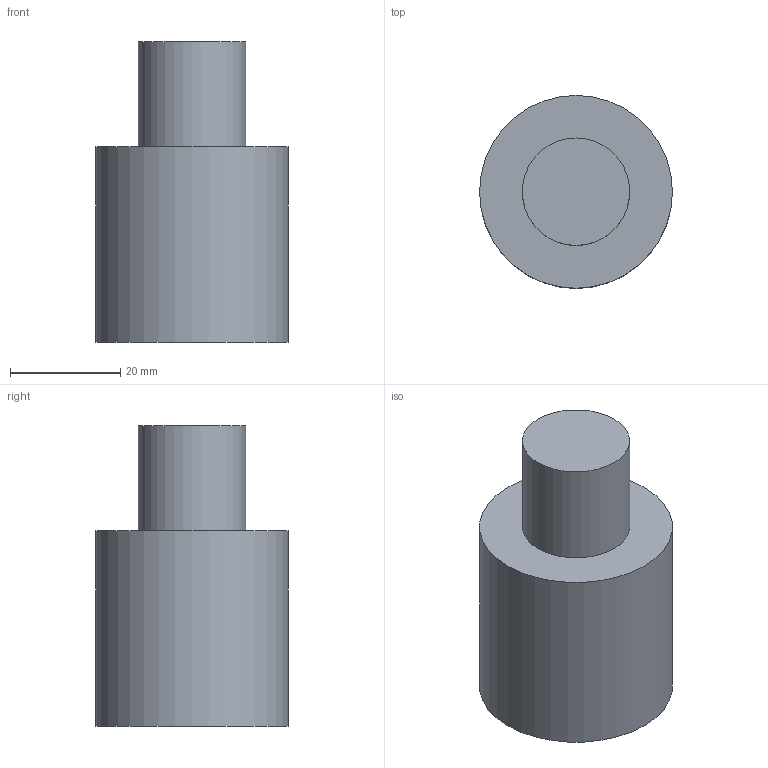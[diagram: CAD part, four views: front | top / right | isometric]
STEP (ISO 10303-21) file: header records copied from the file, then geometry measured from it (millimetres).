
FILE_DESCRIPTION(('Mechanical CAD reference from nasji.com'),'2;1');
FILE_NAME('NASJI.step','',(''),(''),'','NASJI distribution','');
FILE_SCHEMA(('AUTOMOTIVE_DESIGN { 1 0 10303 214 1 1 1 1 }'));
Length unit declared in the file: millimetre
Products named in the file (1): Open CASCADE STEP translator 7.8 154
Bounding box: 35 x 35 x 54.6 mm (x, y, z)
Volume: 39859.2 mm3; surface area: 6997.7 mm2
Topology: 1 solids, 1 shells, 5 faces, 6 edges, 4 vertices
Faces by surface type: plane 3, cylinder 2
Full cylindrical faces by diameter (mm): 19.5 x1, 35 x1
Entity records: 192 total; most frequent: DIRECTION 34, CARTESIAN_POINT 28, ORIENTED_EDGE 12, PCURVE 12, DEFINITIONAL_REPRESENTATION 12, AXIS2_PLACEMENT_3D 10, LINE 10, VECTOR 10
